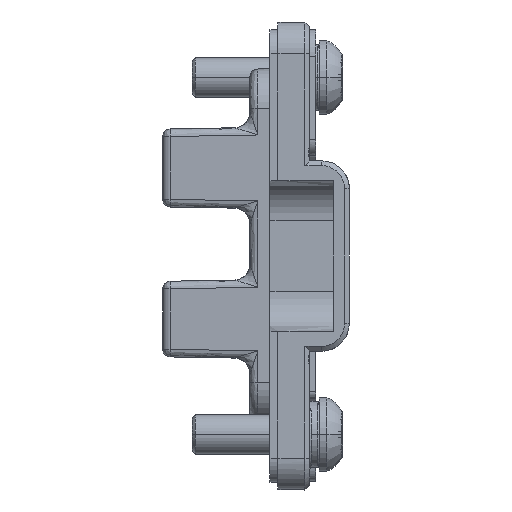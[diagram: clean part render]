
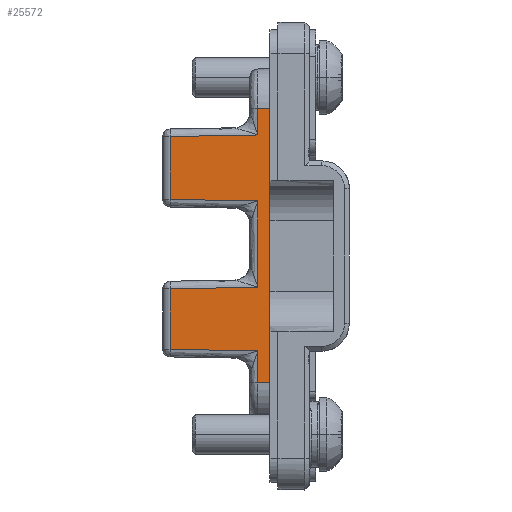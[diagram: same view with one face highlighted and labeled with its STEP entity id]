
A CAD part, front view. The second image highlights one B-rep face of the part: STEP entity #25572.
In plain terms, the highlighted free-form (B-spline) face has degree [1, 1] with [2, 2] control points.
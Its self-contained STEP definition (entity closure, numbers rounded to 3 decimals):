
#5839=CARTESIAN_POINT('',(-0.769,14.163,
24.171));
#5863=DIRECTION('',(0.,0.,-1.));
#5864=VECTOR('',#5863,2.021);
#5865=CARTESIAN_POINT('',(-0.769,14.163,
24.171));
#5866=LINE('',#5865,#5864);
#6015=CARTESIAN_POINT('',(-0.769,14.163,
28.179));
#6036=CARTESIAN_POINT('',(-0.769,14.163,
33.621));
#6060=DIRECTION('',(0.,0.,-1.));
#6061=VECTOR('',#6060,5.443);
#6062=CARTESIAN_POINT('',(-0.769,14.163,
33.621));
#6063=LINE('',#6062,#6061);
#6230=CARTESIAN_POINT('',(-0.769,14.163,
37.779));
#6274=DIRECTION('',(0.,0.,-1.));
#6275=VECTOR('',#6274,1.671);
#6276=CARTESIAN_POINT('',(-0.769,14.163,
39.45));
#6277=LINE('',#6276,#6275);
#6278=DIRECTION('',(-1.,0.017,0.017));
#6279=VECTOR('',#6278,5.521);
#6280=CARTESIAN_POINT('',(-0.769,14.163,
24.171));
#6281=LINE('',#6280,#6279);
#6282=DIRECTION('',(0.,0.,1.));
#6283=VECTOR('',#6282,3.815);
#6284=CARTESIAN_POINT('',(-6.288,14.26,24.268));
#6285=LINE('',#6284,#6283);
#6286=DIRECTION('',(1.,-0.017,0.017));
#6287=VECTOR('',#6286,5.521);
#6288=CARTESIAN_POINT('',(-6.288,14.26,28.082));
#6289=LINE('',#6288,#6287);
#6290=DIRECTION('',(-1.,0.017,0.017));
#6291=VECTOR('',#6290,5.521);
#6292=CARTESIAN_POINT('',(-0.769,14.163,
33.621));
#6293=LINE('',#6292,#6291);
#6294=DIRECTION('',(0.,0.,1.));
#6295=VECTOR('',#6294,3.965);
#6296=CARTESIAN_POINT('',(-6.288,14.26,33.718));
#6297=LINE('',#6296,#6295);
#6298=DIRECTION('',(1.,-0.017,0.017));
#6299=VECTOR('',#6298,5.521);
#6300=CARTESIAN_POINT('',(-6.288,14.26,37.682));
#6301=LINE('',#6300,#6299);
#6302=DIRECTION('',(-1.,0.017,0.));
#6303=VECTOR('',#6302,0.769);
#6304=CARTESIAN_POINT('',(0.,14.15,39.45));
#6305=LINE('',#6304,#6303);
#6306=DIRECTION('',(0.,0.,-1.));
#6307=VECTOR('',#6306,17.3);
#6308=CARTESIAN_POINT('',(0.,14.15,39.45));
#6309=LINE('',#6308,#6307);
#6524=DIRECTION('',(-1.,0.017,0.));
#6525=VECTOR('',#6524,0.769);
#6526=CARTESIAN_POINT('',(0.,14.15,22.15));
#6527=LINE('',#6526,#6525);
#7299=CARTESIAN_POINT('',(-0.769,14.163,
22.15));
#7301=VERTEX_POINT('',#7299);
#7314=CARTESIAN_POINT('',(-0.769,14.163,
39.45));
#7316=VERTEX_POINT('',#7314);
#7434=CARTESIAN_POINT('',(-6.288,14.26,24.268));
#7435=CARTESIAN_POINT('',(-6.288,14.26,28.082));
#7436=VERTEX_POINT('',#7434);
#7437=VERTEX_POINT('',#7435);
#7438=CARTESIAN_POINT('',(-6.288,14.26,33.718));
#7439=CARTESIAN_POINT('',(-6.288,14.26,37.682));
#7440=VERTEX_POINT('',#7438);
#7441=VERTEX_POINT('',#7439);
#7504=VERTEX_POINT('',#6230);
#7522=VERTEX_POINT('',#6036);
#7524=VERTEX_POINT('',#6015);
#7542=VERTEX_POINT('',#5839);
#7616=CARTESIAN_POINT('',(0.,14.15,39.45));
#7618=VERTEX_POINT('',#7616);
#7629=CARTESIAN_POINT('',(0.,14.15,22.15));
#7630=VERTEX_POINT('',#7629);
#25547=CARTESIAN_POINT('',(-6.414,14.262,
21.804));
#25548=CARTESIAN_POINT('',(-6.414,14.262,
39.796));
#25549=CARTESIAN_POINT('',(0.126,14.148,
21.804));
#25550=CARTESIAN_POINT('',(0.126,14.148,
39.796));
#25551=B_SPLINE_SURFACE_WITH_KNOTS('',1,1,((#25547,#25548),(#25549,#25550)),
.UNSPECIFIED.,.F.,.F.,.F.,(2,2),(2,2),(-3.035,3.506),(
-4.371,13.621),.UNSPECIFIED.);
#25553=ORIENTED_EDGE('',*,*,#25552,.T.);
#25555=ORIENTED_EDGE('',*,*,#25554,.T.);
#25556=ORIENTED_EDGE('',*,*,#24909,.T.);
#25557=ORIENTED_EDGE('',*,*,#25020,.F.);
#25559=ORIENTED_EDGE('',*,*,#25558,.T.);
#25561=ORIENTED_EDGE('',*,*,#25560,.T.);
#25562=ORIENTED_EDGE('',*,*,#25430,.T.);
#25563=ORIENTED_EDGE('',*,*,#25542,.F.);
#25565=ORIENTED_EDGE('',*,*,#25564,.F.);
#25566=ORIENTED_EDGE('',*,*,#8679,.T.);
#25568=ORIENTED_EDGE('',*,*,#25567,.T.);
#25569=ORIENTED_EDGE('',*,*,#24499,.F.);
#25570=EDGE_LOOP('',(#25553,#25555,#25556,#25557,#25559,#25561,#25562,#25563,
#25565,#25566,#25568,#25569));
#25571=FACE_OUTER_BOUND('',#25570,.F.);
#25572=ADVANCED_FACE('',(#25571),#25551,.T.);
#8679=EDGE_CURVE('',#7618,#7630,#6309,.T.);
#24499=EDGE_CURVE('',#7542,#7301,#5866,.T.);
#24909=EDGE_CURVE('',#7437,#7524,#6289,.T.);
#25020=EDGE_CURVE('',#7522,#7524,#6063,.T.);
#25430=EDGE_CURVE('',#7441,#7504,#6301,.T.);
#25542=EDGE_CURVE('',#7316,#7504,#6277,.T.);
#25552=EDGE_CURVE('',#7542,#7436,#6281,.T.);
#25554=EDGE_CURVE('',#7436,#7437,#6285,.T.);
#25558=EDGE_CURVE('',#7522,#7440,#6293,.T.);
#25560=EDGE_CURVE('',#7440,#7441,#6297,.T.);
#25564=EDGE_CURVE('',#7618,#7316,#6305,.T.);
#25567=EDGE_CURVE('',#7630,#7301,#6527,.T.);
